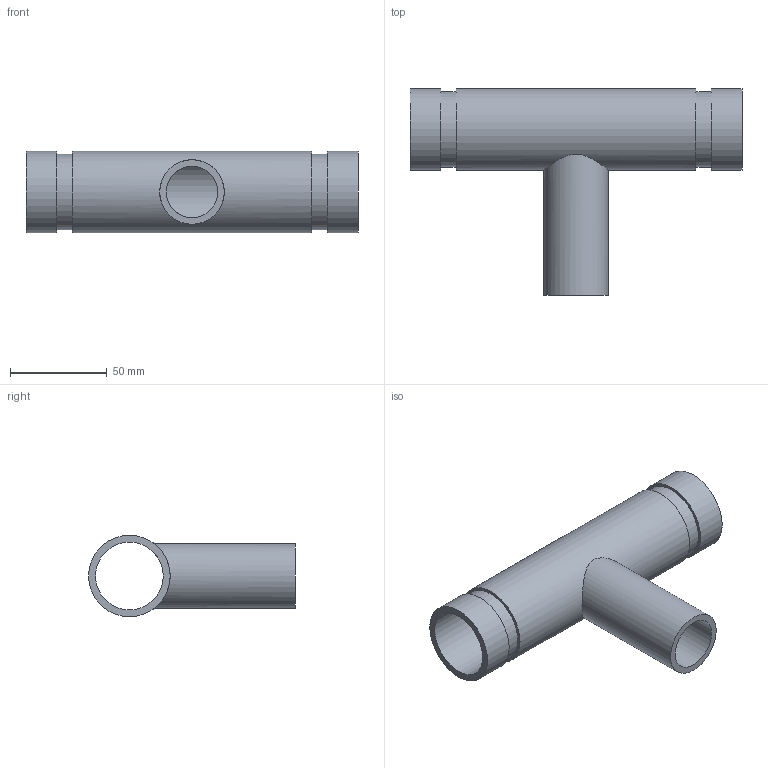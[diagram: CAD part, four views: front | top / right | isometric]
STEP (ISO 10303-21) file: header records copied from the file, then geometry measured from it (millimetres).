
FILE_DESCRIPTION(/* description */ ('VIC REDUCING TEE No 29T FFT (OGSxMPT)','CAx-IF Rec.Pracs.---Representation and Presentation of Product Manufacturing Information (PMI)---4.0---2014-10-13'),/* implementation_level */ '2;1');
FILE_NAME(/* name */ 'C:\Users\kkamble\AppData\Roaming\Autodesk\ApplicationPlugins\Back Up\Victaulic_IPS_Tee Reducing_No 29T FFT (OGSxMPT)\Victaulic_IPS_Tee Reducing_No 29T FFT (OGSxMPT)_01.25x01.0 (32x25).stp',/* time_stamp */ '2020-09-16T22:36:45+05:00',/* author */ ('CORINNE GRAY'),/* organization */ ('Victaulic'),/* preprocessor_version */ 'ST-DEVELOPER v17.2',/* originating_system */ 'Autodesk Inventor 2019',/* authorisation */ '');
FILE_SCHEMA (('AP242_MANAGED_MODEL_BASED_3D_ENGINEERING_MIM_LF { 1 0 10303 442 1 1 4 }'));
Length unit declared in the file: inch
Products named in the file (1): 29 FFT-01.25x01.0
Bounding box: 171.7 x 106.93 x 42.16 mm (x, y, z)
Volume: 90320.7 mm3; surface area: 55067.8 mm2
Topology: 1 solids, 1 shells, 15 faces, 32 edges, 24 vertices
Faces by surface type: cylinder 8, plane 7
Full cylindrical faces by diameter (mm): 26.645 x1, 33.401 x1, 35.052 x1, 38.989 x2, 42.164 x3
Entity records: 693 total; most frequent: CARTESIAN_POINT 205, DIRECTION 106, ORIENTED_EDGE 64, AXIS2_PLACEMENT_3D 49, EDGE_CURVE 32, EDGE_LOOP 24, VERTEX_POINT 24, CIRCLE 20
